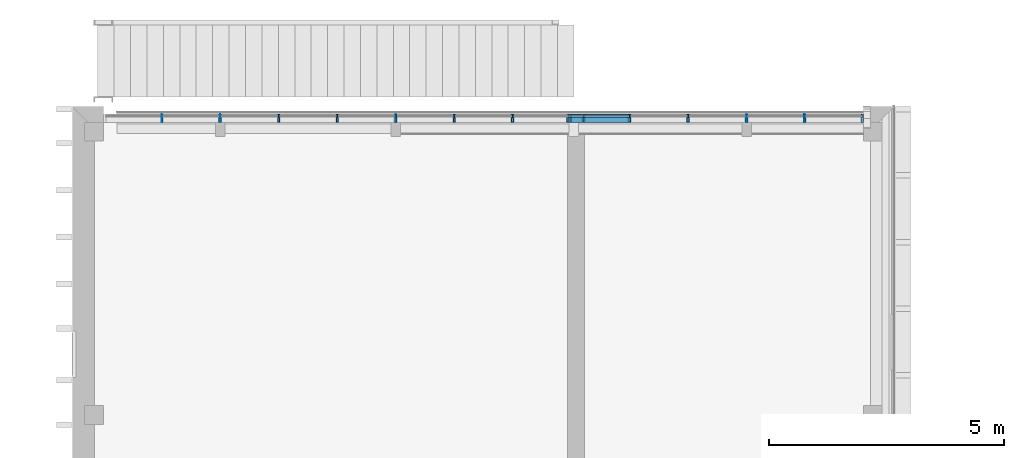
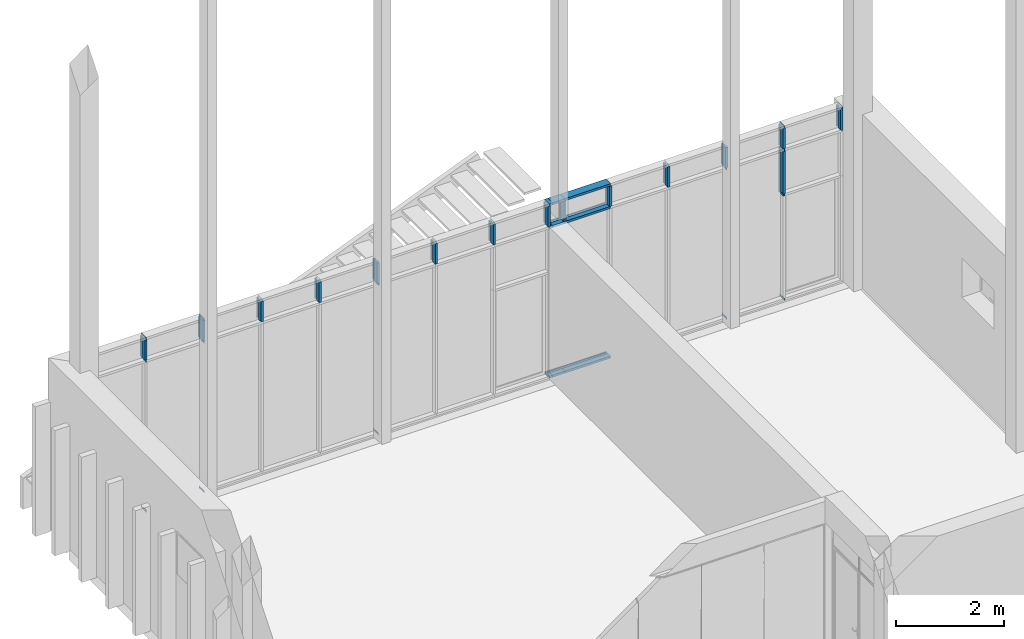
# One storey, part 8 of 89: 38 members, 1 element without a shape of its own.
"""IFC2X3 building model written with IfcOpenShell, lengths in millimetres."""

from ifc_helpers import new_model, entity, si_unit, converted_unit, derived_unit, money_unit, direction, frame, origin_with_axes, place, context, subcontext, project, spatial, polyline, outline, extrude, clip, halfspace, material, type_object, element, aggregate, save


model = new_model("IFC2X3")

# Units and contexts
model_context = context("Model", 3, precision=0.01, world=origin_with_axes(), true_north=direction((0.0, 1.0)))
body_context = subcontext(model_context, "Body", "Model", "MODEL_VIEW")
ifc_project = project(units=[si_unit("LENGTHUNIT", "METRE", prefix="MILLI"), si_unit("AREAUNIT", "SQUARE_METRE"), si_unit("VOLUMEUNIT", "CUBIC_METRE"), converted_unit("PLANEANGLEUNIT", "DEGREE", entity("IfcPlaneAngleMeasure", 0.0174532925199), si_unit("PLANEANGLEUNIT", "RADIAN"), dimensions=[0, 0, 0, 0, 0, 0, 0]), si_unit("SOLIDANGLEUNIT", "STERADIAN"), money_unit("EUR"), converted_unit("TIMEUNIT", "Year", entity("IfcTimeMeasure", 31556926.0), si_unit("TIMEUNIT", "SECOND"), dimensions=[0, 0, 1, 0, 0, 0, 0]), si_unit("MASSUNIT", "GRAM", prefix="KILO"), si_unit("THERMODYNAMICTEMPERATUREUNIT", "DEGREE_CELSIUS"), si_unit("LUMINOUSINTENSITYUNIT", "LUMEN"), si_unit("ENERGYUNIT", "JOULE", prefix="MEGA"), derived_unit("THERMALCONDUCTANCEUNIT", [(si_unit("POWERUNIT", "WATT"), 1), (si_unit("LENGTHUNIT", "METRE"), -1), (si_unit("THERMODYNAMICTEMPERATUREUNIT", "KELVIN"), -1)]), derived_unit("SPECIFICHEATCAPACITYUNIT", [(si_unit("ENERGYUNIT", "JOULE"), 1), (si_unit("MASSUNIT", "GRAM", prefix="KILO"), -1), (si_unit("THERMODYNAMICTEMPERATUREUNIT", "KELVIN"), -1)]), derived_unit("MASSDENSITYUNIT", [(si_unit("MASSUNIT", "GRAM", prefix="KILO"), 1), (si_unit("VOLUMEUNIT", "CUBIC_METRE"), -1)])], contexts=[model_context])

# Site, building, storey
site_placement = place(None, origin_with_axes())
site = spatial("IfcSite", under=ifc_project, at=site_placement, Name="Puškini 31, Narva", CompositionType="ELEMENT")
building_placement = place(site_placement, origin_with_axes())
building = spatial("IfcBuilding", under=site, at=building_placement, Name="Narva Riigigümnaasium", CompositionType="ELEMENT")
storey_placement = place(building_placement, frame((0.0, 0.0, -3300.0), z_axis=(0.0, 0.0, 1.0), x_axis=(1.0, 0.0, 0.0)))
storey = spatial("IfcBuildingStorey", under=building, at=storey_placement, Name="1.korrus -3.3", CompositionType="ELEMENT", Elevation=-3300.0)

# Curtain wall, members
curtain_wall_type = type_object("IfcCurtainWallType", Name="Curtain Wall Type", PredefinedType="NOTDEFINED")
curtain_wall_placement = place(storey_placement, frame((47634.9999923, 254360.0, -1.86566340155e-05), z_axis=(0.0, 0.0, 1.0), x_axis=(1.0, 0.0, 0.0)))
curtain_wall = element("IfcCurtainWall", 1, at=curtain_wall_placement, inside=storey, type_object=curtain_wall_type, Name="G-KLF-06")
ifc_material = material(Name="ET-04_Alumiinium")
member_type_1 = type_object("IfcMemberType", Name="Mullion Frame 50 x 176", PredefinedType="MULLION")
member_1_placement = place(curtain_wall_placement, frame((200.000012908, 0.0, 3420.00003901), z_axis=(0.0, 0.0, 1.0), x_axis=(-1.0, 0.0, 0.0)))
member_1 = element("IfcMember", 2, at=member_1_placement, type_object=member_type_1, material=ifc_material, Name="klaasfassaadi raam", ObjectType="MULLION", context=body_context, shape_type="SweptSolid", body=[
    extrude(outline(polyline([(10.0, -29.0), (10.0, 29.0), (25.0, 29.0), (25.0, 46.0), (-25.0, 46.0), (-25.0, 29.0), (-10.0, 29.0), (-10.0, -29.0), (-25.0, -29.0), (-25.0, -130.0), (25.0, -130.0), (25.0, -29.0), (10.0, -29.0)])), frame((0.0, 0.0, 25.0), z_axis=(0.0, 0.0, 1.0), x_axis=(-1.0, 0.0, 0.0)), (0.0, 0.0, 1.0), 464.999979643),
])
member_2_placement = place(curtain_wall_placement, frame((-6294.99999191, 0.0, 3420.00003901), z_axis=(0.0, 0.0, 1.0), x_axis=(-1.0, 0.0, 0.0)))
member_2 = element("IfcMember", 3, at=member_2_placement, type_object=member_type_1, material=ifc_material, Name="klaasfassaadi raam", ObjectType="MULLION", context=body_context, shape_type="SweptSolid", body=[
    extrude(outline(polyline([(10.0, -29.0), (10.0, 29.0), (25.0, 29.0), (25.0, 46.0), (-25.0, 46.0), (-25.0, 29.0), (-10.0, 29.0), (-10.0, -29.0), (-25.0, -29.0), (-25.0, -130.0), (25.0, -130.0), (25.0, -29.0), (10.0, -29.0)])), frame((0.0, 0.0, 25.0), z_axis=(0.0, 0.0, 1.0), x_axis=(-1.0, 0.0, 0.0)), (0.0, 0.0, 1.0), 464.999979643),
])
member_3_placement = place(curtain_wall_placement, frame((-5048.99999177, 0.0, 3420.00003901), z_axis=(0.0, 0.0, 1.0), x_axis=(-1.0, 0.0, 0.0)))
member_3 = element("IfcMember", 4, at=member_3_placement, type_object=member_type_1, material=ifc_material, Name="klaasfassaadi raam", ObjectType="MULLION", context=body_context, shape_type="SweptSolid", body=[
    extrude(outline(polyline([(10.0, -29.0), (10.0, 29.0), (25.0, 29.0), (25.0, 46.0), (-25.0, 46.0), (-25.0, 29.0), (-10.0, 29.0), (-10.0, -29.0), (-25.0, -29.0), (-25.0, -130.0), (25.0, -130.0), (25.0, -29.0), (10.0, -29.0)])), frame((0.0, 0.0, 25.0), z_axis=(0.0, 0.0, 1.0), x_axis=(-1.0, 0.0, 0.0)), (0.0, 0.0, 1.0), 464.999979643),
])
member_4_placement = place(curtain_wall_placement, frame((-3802.99999163, 0.0, 3420.00003901), z_axis=(0.0, 0.0, 1.0), x_axis=(-1.0, 0.0, 0.0)))
member_4 = element("IfcMember", 5, at=member_4_placement, type_object=member_type_1, material=ifc_material, Name="klaasfassaadi raam", ObjectType="MULLION", context=body_context, shape_type="SweptSolid", body=[
    extrude(outline(polyline([(10.0, -29.0), (10.0, 29.0), (25.0, 29.0), (25.0, 46.0), (-25.0, 46.0), (-25.0, 29.0), (-10.0, 29.0), (-10.0, -29.0), (-25.0, -29.0), (-25.0, -130.0), (25.0, -130.0), (25.0, -29.0), (10.0, -29.0)])), frame((0.0, 0.0, 25.0), z_axis=(0.0, 0.0, 1.0), x_axis=(-1.0, 0.0, 0.0)), (0.0, 0.0, 1.0), 464.999979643),
])
member_5_placement = place(curtain_wall_placement, frame((-2556.99999149, 0.0, 3420.00003901), z_axis=(0.0, 0.0, 1.0), x_axis=(-1.0, 0.0, 0.0)))
member_5 = element("IfcMember", 6, at=member_5_placement, type_object=member_type_1, material=ifc_material, Name="klaasfassaadi raam", ObjectType="MULLION", context=body_context, shape_type="SweptSolid", body=[
    extrude(outline(polyline([(10.0, -29.0), (10.0, 29.0), (25.0, 29.0), (25.0, 46.0), (-25.0, 46.0), (-25.0, 29.0), (-10.0, 29.0), (-10.0, -29.0), (-25.0, -29.0), (-25.0, -130.0), (25.0, -130.0), (25.0, -29.0), (10.0, -29.0)])), frame((0.0, 0.0, 25.0), z_axis=(0.0, 0.0, 1.0), x_axis=(-1.0, 0.0, 0.0)), (0.0, 0.0, 1.0), 464.999979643),
])
member_6_placement = place(curtain_wall_placement, frame((1181.00000892, 0.0, 3420.00003901), z_axis=(0.0, 0.0, 1.0), x_axis=(-1.0, 0.0, 0.0)))
member_6 = element("IfcMember", 7, at=member_6_placement, type_object=member_type_1, material=ifc_material, Name="klaasfassaadi raam", ObjectType="MULLION", context=body_context, shape_type="SweptSolid", body=[
    extrude(outline(polyline([(10.0, -29.0), (10.0, 29.0), (25.0, 29.0), (25.0, 46.0), (-25.0, 46.0), (-25.0, 29.0), (-10.0, 29.0), (-10.0, -29.0), (-25.0, -29.0), (-25.0, -130.0), (25.0, -130.0), (25.0, -29.0), (10.0, -29.0)])), frame((0.0, 0.0, 25.0), z_axis=(0.0, 0.0, 1.0), x_axis=(-1.0, 0.0, 0.0)), (0.0, 0.0, 1.0), 464.999979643),
])
member_7_placement = place(curtain_wall_placement, frame((2427.00000906, 0.0, 3420.00003901), z_axis=(0.0, 0.0, 1.0), x_axis=(-1.0, 0.0, 0.0)))
member_7 = element("IfcMember", 8, at=member_7_placement, type_object=member_type_1, material=ifc_material, Name="klaasfassaadi raam", ObjectType="MULLION", context=body_context, shape_type="SweptSolid", body=[
    extrude(outline(polyline([(10.0, -29.0), (10.0, 29.0), (25.0, 29.0), (25.0, 46.0), (-25.0, 46.0), (-25.0, 29.0), (-10.0, 29.0), (-10.0, -29.0), (-25.0, -29.0), (-25.0, -130.0), (25.0, -130.0), (25.0, -29.0), (10.0, -29.0)])), frame((0.0, 0.0, 25.0), z_axis=(0.0, 0.0, 1.0), x_axis=(-1.0, 0.0, 0.0)), (0.0, 0.0, 1.0), 464.999979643),
])
member_8_placement = place(curtain_wall_placement, frame((3673.0000092, 0.0, 3420.00003901), z_axis=(0.0, 0.0, 1.0), x_axis=(-1.0, 0.0, 0.0)))
member_8 = element("IfcMember", 9, at=member_8_placement, type_object=member_type_1, material=ifc_material, Name="klaasfassaadi raam", ObjectType="MULLION", context=body_context, shape_type="SweptSolid", body=[
    extrude(outline(polyline([(10.0, -29.0), (10.0, 29.0), (25.0, 29.0), (25.0, 46.0), (-25.0, 46.0), (-25.0, 29.0), (-10.0, 29.0), (-10.0, -29.0), (-25.0, -29.0), (-25.0, -130.0), (25.0, -130.0), (25.0, -29.0), (10.0, -29.0)])), frame((0.0, 0.0, 25.0), z_axis=(0.0, 0.0, 1.0), x_axis=(-1.0, 0.0, 0.0)), (0.0, 0.0, 1.0), 464.999979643),
])
member_9_placement = place(curtain_wall_placement, frame((-135.000021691, 0.0, 3420.00003901), z_axis=(0.0, 0.0, 1.0), x_axis=(-1.0, 0.0, 0.0)))
member_9 = element("IfcMember", 10, at=member_9_placement, type_object=member_type_1, material=ifc_material, Name="klaasfassaadi raam", ObjectType="MULLION", context=body_context, shape_type="SweptSolid", body=[
    extrude(outline(polyline([(10.0, -29.0), (10.0, 29.0), (25.0, 29.0), (25.0, 46.0), (-25.0, 46.0), (-25.0, 29.0), (-10.0, 29.0), (-10.0, -29.0), (-25.0, -29.0), (-25.0, -130.0), (25.0, -130.0), (25.0, -29.0), (10.0, -29.0)])), frame((0.0, 0.0, 25.0), z_axis=(0.0, 0.0, 1.0), x_axis=(-1.0, 0.0, 0.0)), (0.0, 0.0, 1.0), 464.999979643),
])
member_10_placement = place(curtain_wall_placement, frame((4907.50002659, 0.0, 3420.00003901), z_axis=(0.0, 0.0, 1.0), x_axis=(-1.0, 0.0, 0.0)))
member_10 = element("IfcMember", 11, at=member_10_placement, type_object=member_type_1, material=ifc_material, Name="klaasfassaadi raam", ObjectType="MULLION", context=body_context, shape_type="SweptSolid", body=[
    extrude(outline(polyline([(10.0, -29.0), (10.0, 29.0), (25.0, 29.0), (25.0, 46.0), (-25.0, 46.0), (-25.0, 29.0), (-10.0, 29.0), (-10.0, -29.0), (-25.0, -29.0), (-25.0, -130.0), (25.0, -130.0), (25.0, -29.0), (10.0, -29.0)])), frame((0.0, 0.0, 25.0), z_axis=(0.0, 0.0, 1.0), x_axis=(-1.0, 0.0, 0.0)), (0.0, 0.0, 1.0), 464.999979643),
])
member_11_placement = place(curtain_wall_placement, frame((-8790.00001748, 0.0, 3420.00003901), z_axis=(0.0, 0.0, 1.0), x_axis=(-1.0, 0.0, 0.0)))
member_11 = element("IfcMember", 12, at=member_11_placement, type_object=member_type_1, material=ifc_material, Name="klaasfassaadi raam", ObjectType="MULLION", context=body_context, shape_type="SweptSolid", body=[
    extrude(outline(polyline([(10.0, -29.0), (10.0, 29.0), (25.0, 29.0), (25.0, 46.0), (-25.0, 46.0), (-25.0, 29.0), (-10.0, 29.0), (-10.0, -29.0), (-25.0, -29.0), (-25.0, -130.0), (25.0, -130.0), (25.0, -29.0), (10.0, -29.0)])), frame((0.0, 0.0, 25.0), z_axis=(0.0, 0.0, 1.0), x_axis=(-1.0, 0.0, 0.0)), (0.0, 0.0, 1.0), 464.999979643),
])
member_12_placement = place(curtain_wall_placement, frame((-1310.99999136, 0.0, 3420.00003901), z_axis=(0.0, 0.0, 1.0), x_axis=(-1.0, 0.0, 0.0)))
member_12 = element("IfcMember", 13, at=member_12_placement, type_object=member_type_1, material=ifc_material, Name="klaasfassaadi raam", ObjectType="MULLION", context=body_context, shape_type="SweptSolid", body=[
    extrude(outline(polyline([(10.0, -29.0), (10.0, 29.0), (25.0, 29.0), (25.0, 46.0), (-25.0, 46.0), (-25.0, 29.0), (-10.0, 29.0), (-10.0, -29.0), (-25.0, -29.0), (-25.0, -130.0), (25.0, -130.0), (25.0, -29.0), (10.0, -29.0)])), frame((0.0, 0.0, 25.0), z_axis=(0.0, 0.0, 1.0), x_axis=(-1.0, 0.0, 0.0)), (0.0, 0.0, 1.0), 464.999979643),
])
member_13_placement = place(curtain_wall_placement, frame((4907.50002659, 0.0, 2400.00002738), z_axis=(0.0, 0.0, 1.0), x_axis=(-1.0, 0.0, 0.0)))
member_13 = element("IfcMember", 14, at=member_13_placement, type_object=member_type_1, material=ifc_material, Name="klaasfassaadi raam", ObjectType="MULLION", context=body_context, shape_type="SweptSolid", body=[
    extrude(outline(polyline([(10.0, -29.0), (10.0, 29.0), (25.0, 29.0), (25.0, 46.0), (-25.0, 46.0), (-25.0, 29.0), (-10.0, 29.0), (-10.0, -29.0), (-25.0, -29.0), (-25.0, -130.0), (25.0, -130.0), (25.0, -29.0), (10.0, -29.0)])), frame((0.0, 0.0, 25.0), z_axis=(0.0, 0.0, 1.0), x_axis=(-1.0, 0.0, 0.0)), (0.0, 0.0, 1.0), 970.000011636),
])
member_14_placement = place(curtain_wall_placement, frame((-7545.00001184, 0.0, 3420.00003901), z_axis=(0.0, 0.0, 1.0), x_axis=(-1.0, 0.0, 0.0)))
member_14 = element("IfcMember", 15, at=member_14_placement, type_object=member_type_1, material=ifc_material, Name="klaasfassaadi raam", ObjectType="MULLION", context=body_context, shape_type="SweptSolid", body=[
    extrude(outline(polyline([(10.0, -29.0), (10.0, 29.0), (25.0, 29.0), (25.0, 46.0), (-25.0, 46.0), (-25.0, 29.0), (-10.0, 29.0), (-10.0, -29.0), (-25.0, -29.0), (-25.0, -130.0), (25.0, -130.0), (25.0, -29.0), (10.0, -29.0)])), frame((0.0, 0.0, 25.0), z_axis=(0.0, 0.0, 1.0), x_axis=(-1.0, 0.0, 0.0)), (0.0, 0.0, 1.0), 464.999979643),
])
member_type_2 = type_object("IfcMemberType", Name="Boundary Frame 50 x 176", PredefinedType="MULLION")
member_15_placement = place(curtain_wall_placement, frame((-64.9999912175, 0.0, 3960.00001866), z_axis=(1.0, 0.0, 0.0), x_axis=(0.0, 0.0, 1.0)))
member_15 = element("IfcMember", 16, at=member_15_placement, type_object=member_type_2, material=ifc_material, Name="klaasfassaadi raam", ObjectType="MULLION", context=body_context, shape_type="SweptSolid", body=[
    extrude(outline(polyline([(29.0, 35.0), (-29.0, 35.0), (-29.0, 50.0), (-46.0, 50.0), (-46.0, 0.0), (130.0, 0.0), (130.0, 50.0), (29.0, 50.0), (29.0, 35.0)])), frame((0.0, 0.0, 0.0), z_axis=(0.0, 0.0, 1.0), x_axis=(0.0, 1.0, 0.0)), (0.0, 0.0, 1.0), 265.000004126),
])
member_16_placement = place(curtain_wall_placement, frame((-8790.00001748, 0.0, 0.0), z_axis=(1.0, 0.0, 0.0), x_axis=(0.0, 0.0, 1.0)))
member_16 = element("IfcMember", 17, at=member_16_placement, type_object=member_type_2, material=ifc_material, Name="klaasfassaadi raam", ObjectType="MULLION", context=body_context, shape_type="SweptSolid", body=[
    extrude(outline(polyline([(29.0, -35.0), (29.0, -50.0), (130.0, -50.0), (130.0, 0.0), (-46.0, 0.0), (-46.0, -50.0), (-29.0, -50.0), (-29.0, -35.0), (29.0, -35.0)])), frame((0.0, 0.0, 0.0), z_axis=(0.0, 0.0, 1.0), x_axis=(0.0, 1.0, 0.0)), (0.0, 0.0, 1.0), 3.00002529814),
])
member_17_placement = place(curtain_wall_placement, frame((-8790.00001748, 0.0, 3960.00001866), z_axis=(1.0, 0.0, 0.0), x_axis=(0.0, 0.0, 1.0)))
member_17 = element("IfcMember", 18, at=member_17_placement, type_object=member_type_2, material=ifc_material, Name="klaasfassaadi raam", ObjectType="MULLION", context=body_context, shape_type="SweptSolid", body=[
    extrude(outline(polyline([(29.0, 35.0), (-29.0, 35.0), (-29.0, 50.0), (-46.0, 50.0), (-46.0, 0.0), (130.0, 0.0), (130.0, 50.0), (29.0, 50.0), (29.0, 35.0)])), frame((0.0, 0.0, 0.0), z_axis=(0.0, 0.0, 1.0), x_axis=(0.0, 1.0, 0.0)), (0.0, 0.0, 1.0), 3.0000138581),
])
member_18_placement = place(curtain_wall_placement, frame((-7545.00001184, 0.0, 0.0), z_axis=(1.0, 0.0, 0.0), x_axis=(0.0, 0.0, 1.0)))
member_18 = element("IfcMember", 19, at=member_18_placement, type_object=member_type_2, material=ifc_material, Name="klaasfassaadi raam", ObjectType="MULLION", context=body_context, shape_type="SweptSolid", body=[
    extrude(outline(polyline([(29.0, -35.0), (29.0, -50.0), (130.0, -50.0), (130.0, 0.0), (-46.0, 0.0), (-46.0, -50.0), (-29.0, -50.0), (-29.0, -35.0), (29.0, -35.0)])), frame((0.0, 0.0, 0.0), z_axis=(0.0, 0.0, 1.0), x_axis=(0.0, 1.0, 0.0)), (0.0, 0.0, 1.0), 4.00001979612),
])
member_19_placement = place(curtain_wall_placement, frame((-7545.00001184, 0.0, 3960.00001866), z_axis=(1.0, 0.0, 0.0), x_axis=(0.0, 0.0, 1.0)))
member_19 = element("IfcMember", 20, at=member_19_placement, type_object=member_type_2, material=ifc_material, Name="klaasfassaadi raam", ObjectType="MULLION", context=body_context, shape_type="SweptSolid", body=[
    extrude(outline(polyline([(29.0, 35.0), (-29.0, 35.0), (-29.0, 50.0), (-46.0, 50.0), (-46.0, 0.0), (130.0, 0.0), (130.0, 50.0), (29.0, 50.0), (29.0, 35.0)])), frame((0.0, 0.0, 0.0), z_axis=(0.0, 0.0, 1.0), x_axis=(0.0, 1.0, 0.0)), (0.0, 0.0, 1.0), 3.9999949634),
])
member_20_placement = place(curtain_wall_placement, frame((-3805.00000387, 0.0, 0.0), z_axis=(1.0, 0.0, 0.0), x_axis=(0.0, 0.0, 1.0)))
member_20 = element("IfcMember", 21, at=member_20_placement, type_object=member_type_2, material=ifc_material, Name="klaasfassaadi raam", ObjectType="MULLION", context=body_context, shape_type="SweptSolid", body=[
    extrude(outline(polyline([(29.0, -35.0), (29.0, -50.0), (130.0, -50.0), (130.0, 0.0), (-46.0, 0.0), (-46.0, -50.0), (-29.0, -50.0), (-29.0, -35.0), (29.0, -35.0)])), frame((0.0, 0.0, 0.0), z_axis=(0.0, 0.0, 1.0), x_axis=(0.0, 1.0, 0.0)), (0.0, 0.0, 1.0), 2.00001223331),
])
member_21_placement = place(curtain_wall_placement, frame((-135.000021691, 0.0, 0.0), z_axis=(1.0, 0.0, 0.0), x_axis=(0.0, 0.0, 1.0)))
member_21 = element("IfcMember", 22, at=member_21_placement, type_object=member_type_2, material=ifc_material, Name="klaasfassaadi raam", ObjectType="MULLION", context=body_context, shape_type="SweptSolid", body=[
    extrude(outline(polyline([(29.0, -35.0), (29.0, -50.0), (130.0, -50.0), (130.0, 0.0), (-46.0, 0.0), (-46.0, -50.0), (-29.0, -50.0), (-29.0, -35.0), (29.0, -35.0)])), frame((0.0, 0.0, 0.0), z_axis=(0.0, 0.0, 1.0), x_axis=(0.0, 1.0, 0.0)), (0.0, 0.0, 1.0), 70.0000304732),
])
member_22_placement = place(curtain_wall_placement, frame((-135.000021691, 0.0, 3960.00001866), z_axis=(1.0, 0.0, 0.0), x_axis=(0.0, 0.0, 1.0)))
member_22 = element("IfcMember", 23, at=member_22_placement, type_object=member_type_2, material=ifc_material, Name="klaasfassaadi raam", ObjectType="MULLION", context=body_context, shape_type="SweptSolid", body=[
    extrude(outline(polyline([(29.0, 35.0), (-29.0, 35.0), (-29.0, 50.0), (-46.0, 50.0), (-46.0, 0.0), (130.0, 0.0), (130.0, 50.0), (29.0, 50.0), (29.0, 35.0)])), frame((0.0, 0.0, 0.0), z_axis=(0.0, 0.0, 1.0), x_axis=(0.0, 1.0, 0.0)), (0.0, 0.0, 1.0), 70.0000304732),
])
member_23_placement = place(curtain_wall_placement, frame((200.000012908, 0.0, 0.0), z_axis=(1.0, 0.0, 0.0), x_axis=(0.0, 0.0, 1.0)))
member_23 = element("IfcMember", 24, at=member_23_placement, type_object=member_type_2, material=ifc_material, Name="klaasfassaadi raam", ObjectType="MULLION", context=body_context, shape_type="SweptSolid", body=[
    extrude(outline(polyline([(29.0, -35.0), (29.0, -50.0), (130.0, -50.0), (130.0, 0.0), (-46.0, 0.0), (-46.0, -50.0), (-29.0, -50.0), (-29.0, -35.0), (29.0, -35.0)])), frame((0.0, 0.0, 0.0), z_axis=(0.0, 0.0, 1.0), x_axis=(0.0, 1.0, 0.0)), (0.0, 0.0, 1.0), 980.999996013),
])
member_24_placement = place(curtain_wall_placement, frame((200.000012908, 0.0, 3960.00001866), z_axis=(1.0, 0.0, 0.0), x_axis=(0.0, 0.0, 1.0)))
member_24 = element("IfcMember", 25, at=member_24_placement, type_object=member_type_2, material=ifc_material, Name="klaasfassaadi raam", ObjectType="MULLION", context=body_context, shape_type="SweptSolid", body=[
    extrude(outline(polyline([(29.0, 35.0), (-29.0, 35.0), (-29.0, 50.0), (-46.0, 50.0), (-46.0, 0.0), (130.0, 0.0), (130.0, 50.0), (29.0, 50.0), (29.0, 35.0)])), frame((0.0, 0.0, 0.0), z_axis=(0.0, 0.0, 1.0), x_axis=(0.0, 1.0, 0.0)), (0.0, 0.0, 1.0), 980.999996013),
])
member_25_placement = place(curtain_wall_placement, frame((4907.50002659, 0.0, 0.0), z_axis=(1.0, 0.0, 0.0), x_axis=(0.0, 0.0, 1.0)))
member_25 = element("IfcMember", 26, at=member_25_placement, type_object=member_type_2, material=ifc_material, Name="klaasfassaadi raam", ObjectType="MULLION", context=body_context, shape_type="SweptSolid", body=[
    extrude(outline(polyline([(29.0, -35.0), (29.0, -50.0), (130.0, -50.0), (130.0, 0.0), (-46.0, 0.0), (-46.0, -50.0), (-29.0, -50.0), (-29.0, -35.0), (29.0, -35.0)])), frame((0.0, 0.0, 0.0), z_axis=(0.0, 0.0, 1.0), x_axis=(0.0, 1.0, 0.0)), (0.0, 0.0, 1.0), 11.4999827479),
])
member_26_placement = place(curtain_wall_placement, frame((4907.50002659, 0.0, 3960.00001866), z_axis=(1.0, 0.0, 0.0), x_axis=(0.0, 0.0, 1.0)))
member_26 = element("IfcMember", 27, at=member_26_placement, type_object=member_type_2, material=ifc_material, Name="klaasfassaadi raam", ObjectType="MULLION", context=body_context, shape_type="SweptSolid", body=[
    extrude(outline(polyline([(29.0, 35.0), (-29.0, 35.0), (-29.0, 50.0), (-46.0, 50.0), (-46.0, 0.0), (130.0, 0.0), (130.0, 50.0), (29.0, 50.0), (29.0, 35.0)])), frame((0.0, 0.0, 0.0), z_axis=(0.0, 0.0, 1.0), x_axis=(0.0, 1.0, 0.0)), (0.0, 0.0, 1.0), 11.5000016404),
])
member_27_placement = place(curtain_wall_placement, frame((6165.00000947, 0.0, 3420.00003901), z_axis=(0.0, 0.0, 1.0), x_axis=(-1.0, 0.0, 0.0)))
member_27 = element("IfcMember", 28, at=member_27_placement, type_object=member_type_2, material=ifc_material, Name="klaasfassaadi raam", ObjectType="MULLION", context=body_context, shape_type="Clipping", body=[
    clip(clip(extrude(outline(polyline([(-35.0, -29.0), (-50.0, -29.0), (-50.0, -130.0), (0.0, -130.0), (0.0, 46.0), (-50.0, 46.0), (-50.0, 29.0), (-35.0, 29.0), (-35.0, -29.0)])), frame((0.0, 0.0, 0.0), z_axis=(0.0, 0.0, 1.0), x_axis=(-1.0, 0.0, 0.0)), (0.0, 0.0, 1.0), 539.999979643), halfspace(frame((269.999989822, 0.0, 269.999989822), z_axis=(-0.707106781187, 0.0, -0.707106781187), x_axis=(0.0, 1.0, 0.0)), True)), halfspace(frame((0.0, 0.0, 0.0), z_axis=(-0.4472135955, 0.0, 0.894427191), x_axis=(0.0, -1.0, 0.0)), True)),
])
member_28_placement = place(curtain_wall_placement, frame((-8790.00001748, 0.0, 3420.00003901), z_axis=(1.0, 0.0, 0.0), x_axis=(0.0, 0.0, 1.0)))
member_28 = element("IfcMember", 29, at=member_28_placement, type_object=member_type_2, material=ifc_material, Name="klaasfassaadi raam", ObjectType="MULLION", context=body_context, shape_type="SweptSolid", body=[
    extrude(outline(polyline([(29.0, 10.0), (-29.0, 10.0), (-29.0, 25.0), (-46.0, 25.0), (-46.0, -25.0), (-29.0, -25.0), (-29.0, -10.0), (29.0, -10.0), (29.0, -25.0), (130.0, -25.0), (130.0, 25.0), (29.0, 25.0), (29.0, 10.0)])), frame((0.0, 0.0, 0.0), z_axis=(0.0, 0.0, 1.0), x_axis=(0.0, 1.0, 0.0)), (0.0, 0.0, 1.0), 3.00002529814),
])
member_29_placement = place(curtain_wall_placement, frame((-7545.00001184, 0.0, 3420.00003901), z_axis=(1.0, 0.0, 0.0), x_axis=(0.0, 0.0, 1.0)))
member_29 = element("IfcMember", 30, at=member_29_placement, type_object=member_type_2, material=ifc_material, Name="klaasfassaadi raam", ObjectType="MULLION", context=body_context, shape_type="SweptSolid", body=[
    extrude(outline(polyline([(29.0, 10.0), (-29.0, 10.0), (-29.0, 25.0), (-46.0, 25.0), (-46.0, -25.0), (-29.0, -25.0), (-29.0, -10.0), (29.0, -10.0), (29.0, -25.0), (130.0, -25.0), (130.0, 25.0), (29.0, 25.0), (29.0, 10.0)])), frame((0.0, 0.0, 0.0), z_axis=(0.0, 0.0, 1.0), x_axis=(0.0, 1.0, 0.0)), (0.0, 0.0, 1.0), 4.00001979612),
])
member_30_placement = place(curtain_wall_placement, frame((-3805.00000387, 0.0, 3420.00003901), z_axis=(1.0, 0.0, 0.0), x_axis=(0.0, 0.0, 1.0)))
member_30 = element("IfcMember", 31, at=member_30_placement, type_object=member_type_2, material=ifc_material, Name="klaasfassaadi raam", ObjectType="MULLION", context=body_context, shape_type="SweptSolid", body=[
    extrude(outline(polyline([(29.0, 10.0), (-29.0, 10.0), (-29.0, 25.0), (-46.0, 25.0), (-46.0, -25.0), (-29.0, -25.0), (-29.0, -10.0), (29.0, -10.0), (29.0, -25.0), (130.0, -25.0), (130.0, 25.0), (29.0, 25.0), (29.0, 10.0)])), frame((0.0, 0.0, 0.0), z_axis=(0.0, 0.0, 1.0), x_axis=(0.0, 1.0, 0.0)), (0.0, 0.0, 1.0), 27.0000122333),
])
member_31_placement = place(curtain_wall_placement, frame((200.000012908, 0.0, 3420.00003901), z_axis=(1.0, 0.0, 0.0), x_axis=(0.0, 0.0, 1.0)))
member_31 = element("IfcMember", 32, at=member_31_placement, type_object=member_type_2, material=ifc_material, Name="klaasfassaadi raam", ObjectType="MULLION", context=body_context, shape_type="SweptSolid", body=[
    extrude(outline(polyline([(29.0, 10.0), (-29.0, 10.0), (-29.0, 25.0), (-46.0, 25.0), (-46.0, -25.0), (-29.0, -25.0), (-29.0, -10.0), (29.0, -10.0), (29.0, -25.0), (130.0, -25.0), (130.0, 25.0), (29.0, 25.0), (29.0, 10.0)])), frame((0.0, 0.0, 0.0), z_axis=(0.0, 0.0, 1.0), x_axis=(0.0, 1.0, 0.0)), (0.0, 0.0, 1.0), 980.999996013),
])
member_32_placement = place(curtain_wall_placement, frame((-64.9999912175, 0.0, 3420.00003901), z_axis=(1.0, 0.0, 0.0), x_axis=(0.0, 0.0, 1.0)))
member_32 = element("IfcMember", 33, at=member_32_placement, type_object=member_type_2, material=ifc_material, Name="klaasfassaadi raam", ObjectType="MULLION", context=body_context, shape_type="SweptSolid", body=[
    extrude(outline(polyline([(29.0, 10.0), (-29.0, 10.0), (-29.0, 25.0), (-46.0, 25.0), (-46.0, -25.0), (-29.0, -25.0), (-29.0, -10.0), (29.0, -10.0), (29.0, -25.0), (130.0, -25.0), (130.0, 25.0), (29.0, 25.0), (29.0, 10.0)])), frame((0.0, 0.0, 0.0), z_axis=(0.0, 0.0, 1.0), x_axis=(0.0, 1.0, 0.0)), (0.0, 0.0, 1.0), 265.000004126),
])
member_33_placement = place(curtain_wall_placement, frame((4907.50002659, 0.0, 3420.00003901), z_axis=(1.0, 0.0, 0.0), x_axis=(0.0, 0.0, 1.0)))
member_33 = element("IfcMember", 34, at=member_33_placement, type_object=member_type_2, material=ifc_material, Name="klaasfassaadi raam", ObjectType="MULLION", context=body_context, shape_type="SweptSolid", body=[
    extrude(outline(polyline([(29.0, 10.0), (-29.0, 10.0), (-29.0, 25.0), (-46.0, 25.0), (-46.0, -25.0), (-29.0, -25.0), (-29.0, -10.0), (29.0, -10.0), (29.0, -25.0), (130.0, -25.0), (130.0, 25.0), (29.0, 25.0), (29.0, 10.0)])), frame((0.0, 0.0, 0.0), z_axis=(0.0, 0.0, 1.0), x_axis=(0.0, 1.0, 0.0)), (0.0, 0.0, 1.0), 11.4999827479),
])
member_34_placement = place(curtain_wall_placement, frame((-135.000021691, 0.0, 3420.00003901), z_axis=(1.0, 0.0, 0.0), x_axis=(0.0, 0.0, 1.0)))
member_34 = element("IfcMember", 35, at=member_34_placement, type_object=member_type_2, material=ifc_material, Name="klaasfassaadi raam", ObjectType="MULLION", context=body_context, shape_type="SweptSolid", body=[
    extrude(outline(polyline([(29.0, 10.0), (-29.0, 10.0), (-29.0, 25.0), (-46.0, 25.0), (-46.0, -25.0), (-29.0, -25.0), (-29.0, -10.0), (29.0, -10.0), (29.0, -25.0), (130.0, -25.0), (130.0, 25.0), (29.0, 25.0), (29.0, 10.0)])), frame((0.0, 0.0, 0.0), z_axis=(0.0, 0.0, 1.0), x_axis=(0.0, 1.0, 0.0)), (0.0, 0.0, 1.0), 70.0000304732),
])
member_35_placement = place(curtain_wall_placement, frame((-64.9999912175, 0.0, 0.0), z_axis=(1.0, 0.0, 0.0), x_axis=(0.0, 0.0, 1.0)))
member_35 = element("IfcMember", 36, at=member_35_placement, type_object=member_type_2, material=ifc_material, Name="klaasfassaadi raam", ObjectType="MULLION", context=body_context, shape_type="SweptSolid", body=[
    extrude(outline(polyline([(29.0, -35.0), (29.0, -50.0), (130.0, -50.0), (130.0, 0.0), (-46.0, 0.0), (-46.0, -50.0), (-29.0, -50.0), (-29.0, -35.0), (29.0, -35.0)])), frame((0.0, 0.0, 0.0), z_axis=(0.0, 0.0, 1.0), x_axis=(0.0, 1.0, 0.0)), (0.0, 0.0, 1.0), 265.000004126),
])
member_36_placement = place(curtain_wall_placement, frame((3673.0000092, 0.0, 0.0), z_axis=(1.0, 0.0, 0.0), x_axis=(0.0, 0.0, 1.0)))
member_36 = element("IfcMember", 37, at=member_36_placement, type_object=member_type_2, material=ifc_material, Name="klaasfassaadi raam", ObjectType="MULLION", context=body_context, shape_type="SweptSolid", body=[
    extrude(outline(polyline([(29.0, -35.0), (29.0, -50.0), (130.0, -50.0), (130.0, 0.0), (-46.0, 0.0), (-46.0, -50.0), (-29.0, -50.0), (-29.0, -35.0), (29.0, -35.0)])), frame((0.0, 0.0, 0.0), z_axis=(0.0, 0.0, 1.0), x_axis=(0.0, 1.0, 0.0)), (0.0, 0.0, 1.0), 2.00001223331),
])
member_37_placement = place(curtain_wall_placement, frame((4907.50002659, 0.0, 2400.00002738), z_axis=(1.0, 0.0, 0.0), x_axis=(0.0, 0.0, 1.0)))
member_37 = element("IfcMember", 38, at=member_37_placement, type_object=member_type_2, material=ifc_material, Name="klaasfassaadi raam", ObjectType="MULLION", context=body_context, shape_type="SweptSolid", body=[
    extrude(outline(polyline([(29.0, 10.0), (-29.0, 10.0), (-29.0, 25.0), (-46.0, 25.0), (-46.0, -25.0), (-29.0, -25.0), (-29.0, -10.0), (29.0, -10.0), (29.0, -25.0), (130.0, -25.0), (130.0, 25.0), (29.0, 25.0), (29.0, 10.0)])), frame((0.0, 0.0, -25.0), z_axis=(0.0, 0.0, 1.0), x_axis=(0.0, 1.0, 0.0)), (0.0, 0.0, 1.0), 36.4999827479),
])
member_38_placement = place(curtain_wall_placement, frame((3673.0000092, 0.0, 3420.00003901), z_axis=(1.0, 0.0, 0.0), x_axis=(0.0, 0.0, 1.0)))
member_38 = element("IfcMember", 39, at=member_38_placement, type_object=member_type_2, material=ifc_material, Name="klaasfassaadi raam", ObjectType="MULLION", context=body_context, shape_type="SweptSolid", body=[
    extrude(outline(polyline([(29.0, 10.0), (-29.0, 10.0), (-29.0, 25.0), (-46.0, 25.0), (-46.0, -25.0), (-29.0, -25.0), (-29.0, -10.0), (29.0, -10.0), (29.0, -25.0), (130.0, -25.0), (130.0, 25.0), (29.0, 25.0), (29.0, 10.0)])), frame((0.0, 0.0, 0.0), z_axis=(0.0, 0.0, 1.0), x_axis=(0.0, 1.0, 0.0)), (0.0, 0.0, 1.0), 1.99998366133),
])
aggregate(curtain_wall, [member_1, member_15, member_16, member_17, member_18, member_19, member_2, member_20, member_3, member_4, member_5, member_21, member_22, member_23, member_24, member_6, member_7, member_25, member_26, member_8, member_27, member_28, member_29, member_30, member_31, member_32, member_33, member_34, member_35, member_9, member_10, member_11, member_12, member_36, member_13, member_14, member_37, member_38])

save(model, "model.ifc")
